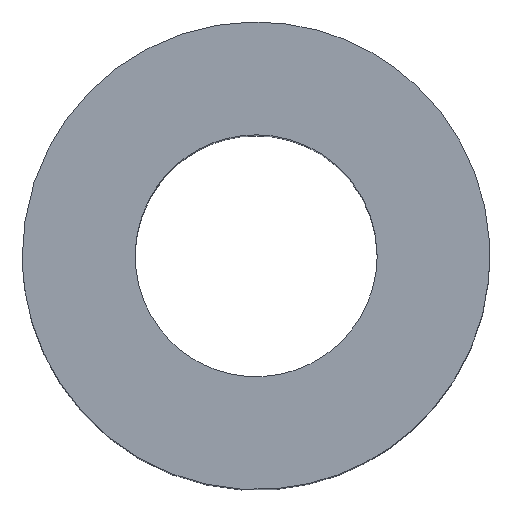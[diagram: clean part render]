
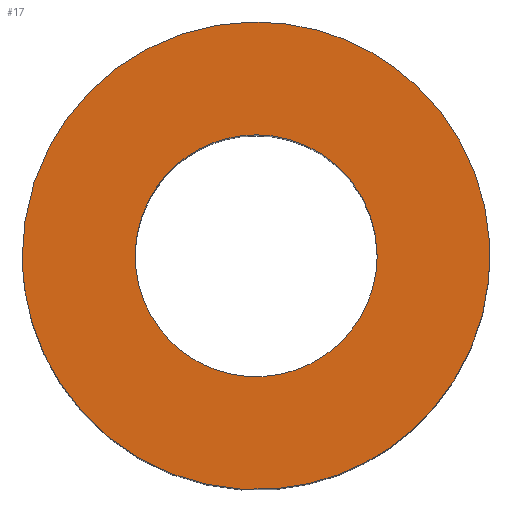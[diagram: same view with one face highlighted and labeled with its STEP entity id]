
A CAD part, top view. The second image highlights one B-rep face of the part: STEP entity #17.
In plain terms, the highlighted free-form (B-spline) face has degree [1, 1] with [2, 2] control points.
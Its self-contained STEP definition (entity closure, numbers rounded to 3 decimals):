
#17 = ADVANCED_FACE('',(#18,#32),#46,.F.);
#18 = FACE_BOUND('',#19,.T.);
#19 = EDGE_LOOP('',(#20));
#20 = ORIENTED_EDGE('',*,*,#21,.F.);
#21 = EDGE_CURVE('',#22,#22,#24,.T.);
#22 = VERTEX_POINT('',#23);
#23 = CARTESIAN_POINT('',(1.125,0.,4.5));
#24 = ( BOUNDED_CURVE() B_SPLINE_CURVE(2,(#25,#26,#27,#28,#29,#30,#31),
.UNSPECIFIED.,.T.,.F.) B_SPLINE_CURVE_WITH_KNOTS((1,2,2,2,2,1),(
    -2.094,0.,2.094,4.189,6.283,
8.378),.UNSPECIFIED.) CURVE() GEOMETRIC_REPRESENTATION_ITEM() 
RATIONAL_B_SPLINE_CURVE((1.,0.5,1.,0.5,1.,0.5,1.)) REPRESENTATION_ITEM(
  '') );
#25 = CARTESIAN_POINT('',(1.125,0.,4.5));
#26 = CARTESIAN_POINT('',(1.125,1.949,4.5));
#27 = CARTESIAN_POINT('',(-0.563,0.974,4.5));
#28 = CARTESIAN_POINT('',(-2.25,0.,4.5));
#29 = CARTESIAN_POINT('',(-0.563,-0.974,4.5));
#30 = CARTESIAN_POINT('',(1.125,-1.949,4.5));
#31 = CARTESIAN_POINT('',(1.125,0.,4.5));
#32 = FACE_BOUND('',#33,.T.);
#33 = EDGE_LOOP('',(#34));
#34 = ORIENTED_EDGE('',*,*,#35,.F.);
#35 = EDGE_CURVE('',#36,#36,#38,.T.);
#36 = VERTEX_POINT('',#37);
#37 = CARTESIAN_POINT('',(-2.175,0.,4.5));
#38 = ( BOUNDED_CURVE() B_SPLINE_CURVE(2,(#39,#40,#41,#42,#43,#44,#45),
.UNSPECIFIED.,.T.,.F.) B_SPLINE_CURVE_WITH_KNOTS((1,2,2,2,2,1),(
    -2.094,0.,2.094,4.189,6.283,
8.378),.UNSPECIFIED.) CURVE() GEOMETRIC_REPRESENTATION_ITEM() 
RATIONAL_B_SPLINE_CURVE((1.,0.5,1.,0.5,1.,0.5,1.)) REPRESENTATION_ITEM(
  '') );
#39 = CARTESIAN_POINT('',(-2.175,0.,4.5));
#40 = CARTESIAN_POINT('',(-2.175,3.767,4.5));
#41 = CARTESIAN_POINT('',(1.088,1.884,4.5));
#42 = CARTESIAN_POINT('',(4.35,0.,4.5));
#43 = CARTESIAN_POINT('',(1.088,-1.884,4.5));
#44 = CARTESIAN_POINT('',(-2.175,-3.767,4.5));
#45 = CARTESIAN_POINT('',(-2.175,0.,4.5));
#46 = B_SPLINE_SURFACE_WITH_KNOTS('',1,1,(
    (#47,#48)
    ,(#49,#50
    )),.UNSPECIFIED.,.F.,.F.,.F.,(2,2),(2,2),(-2.175,2.175),(-2.175,
    2.175),.PIECEWISE_BEZIER_KNOTS.);
#47 = CARTESIAN_POINT('',(2.175,-2.175,4.5));
#48 = CARTESIAN_POINT('',(2.175,2.175,4.5));
#49 = CARTESIAN_POINT('',(-2.175,-2.175,4.5));
#50 = CARTESIAN_POINT('',(-2.175,2.175,4.5));
